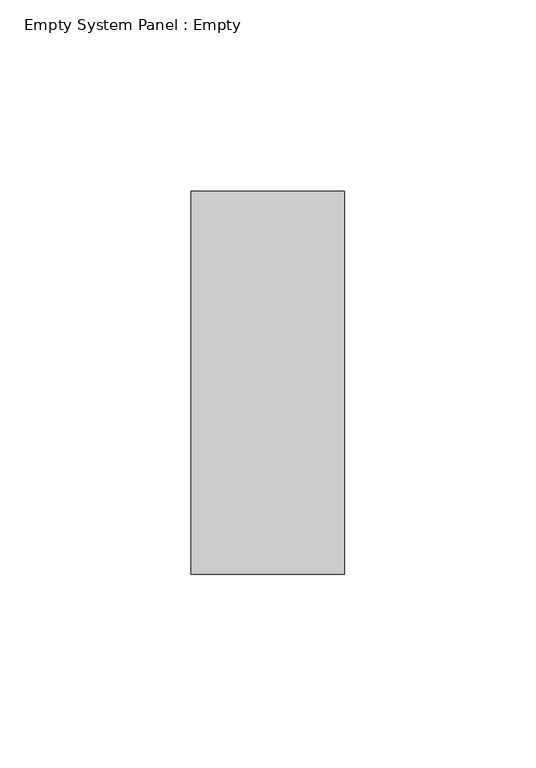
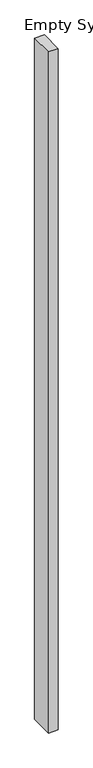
"""IFC4 building model written with IfcOpenShell, lengths in millimetres: plate geometry, Empty System Panel : Empty."""

from ifc_helpers import new_model, si_unit, origin, origin_with_axes, place, context, project, spatial, polyline, outline, extrude, source, transform, mapped, element, save


def empty_system_panel_empty_086c6263(model_context):
    return source(origin(), model_context, "Body", "SweptSolid", [
        extrude(outline(polyline([(20.0, 50.0), (-20.0, 50.0), (-20.0, 150.0), (20.0, 150.0), (20.0, 50.0)])), origin_with_axes(), (0.0, 0.0, 1.0), 3000.0),
    ])


if __name__ == "__main__":
    model = new_model("IFC4")
    model_context = context("Model", 3, world=origin())
    ifc_project = project(units=[si_unit("LENGTHUNIT", "METRE", prefix="MILLI")], contexts=[model_context])
    site = spatial("IfcSite", under=ifc_project)
    building = spatial("IfcBuilding", under=site)
    placement = place(None, origin())
    empty_system_panel_empty_shape = empty_system_panel_empty_086c6263(model_context)
    element("IfcPlate", 1, ObjectType="Empty System Panel : Empty", at=placement, inside=building, context=model_context, shape_type="MappedRepresentation", body=[
        mapped(empty_system_panel_empty_shape, transform((0.0, 0.0, 0.0), x_axis=(1.0, 0.0, 0.0), y_axis=(0.0, 1.0, 0.0), z_axis=(0.0, 0.0, 1.0))),
    ])
    save(model, "model.ifc")
